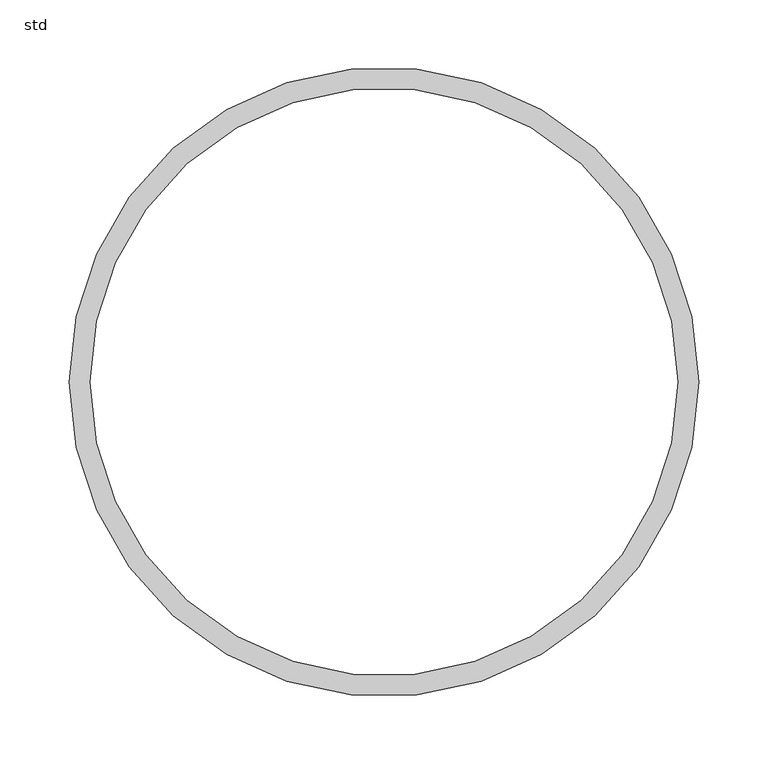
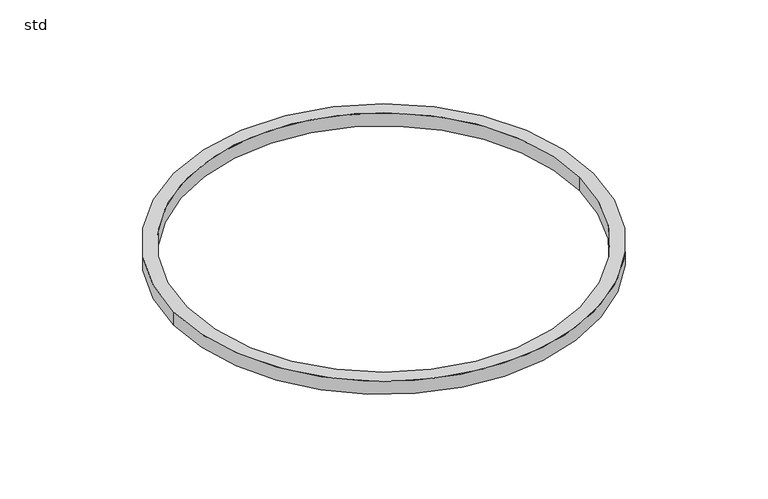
"""IFC4 building model written with IfcOpenShell, lengths in millimetres: pipe fitting geometry, NLRS_52_PIF_WPB_Ultra Kyma dichtingsring SH_Dyka : std."""

from ifc_helpers import new_model, si_unit, point, origin, origin_with_axes, origin_2d, place, context, project, spatial, circle_curve, trimmed, segment, composite_curve, outline, extrude, source, transform, mapped, element, save


def std_dbbd8e8e(model_context):
    return source(origin(), model_context, "Body", "SweptSolid", [
        extrude(outline(composite_curve([segment(trimmed(circle_curve(origin_2d(), 227.0), [point((-227.0, 0.0))], [point((227.0, 0.0))], False, "CARTESIAN"), True, "CONTINUOUS"), segment(trimmed(circle_curve(origin_2d(), 227.0), [point((227.0, 0.0))], [point((-227.0, 0.0))], False, "CARTESIAN"), True, "CONTINUOUS")], self_intersect=False), holes=[composite_curve([segment(trimmed(circle_curve(origin_2d(), 212.0), [point((212.0, 0.0))], [point((-212.0, 0.0))], True, "CARTESIAN"), True, "CONTINUOUS"), segment(trimmed(circle_curve(origin_2d(), 212.0), [point((-212.0, 0.0))], [point((212.0, 0.0))], True, "CARTESIAN"), True, "CONTINUOUS")], self_intersect=False)]), origin_with_axes(), (0.0, 0.0, 1.0), 15.0),
    ])


if __name__ == "__main__":
    model = new_model("IFC4")
    model_context = context("Model", 3, world=origin())
    ifc_project = project(units=[si_unit("LENGTHUNIT", "METRE", prefix="MILLI")], contexts=[model_context])
    site = spatial("IfcSite", under=ifc_project)
    building = spatial("IfcBuilding", under=site)
    placement = place(None, origin())
    std_shape = std_dbbd8e8e(model_context)
    element("IfcPipeFitting", 1, ObjectType="NLRS_52_PIF_WPB_Ultra Kyma dichtingsring SH_Dyka : std", at=placement, inside=building, context=model_context, shape_type="MappedRepresentation", body=[
        mapped(std_shape, transform((0.0, 0.0, 0.0), x_axis=(1.0, 0.0, 0.0), y_axis=(0.0, 1.0, 0.0), z_axis=(0.0, 0.0, 1.0))),
    ])
    save(model, "model.ifc")
